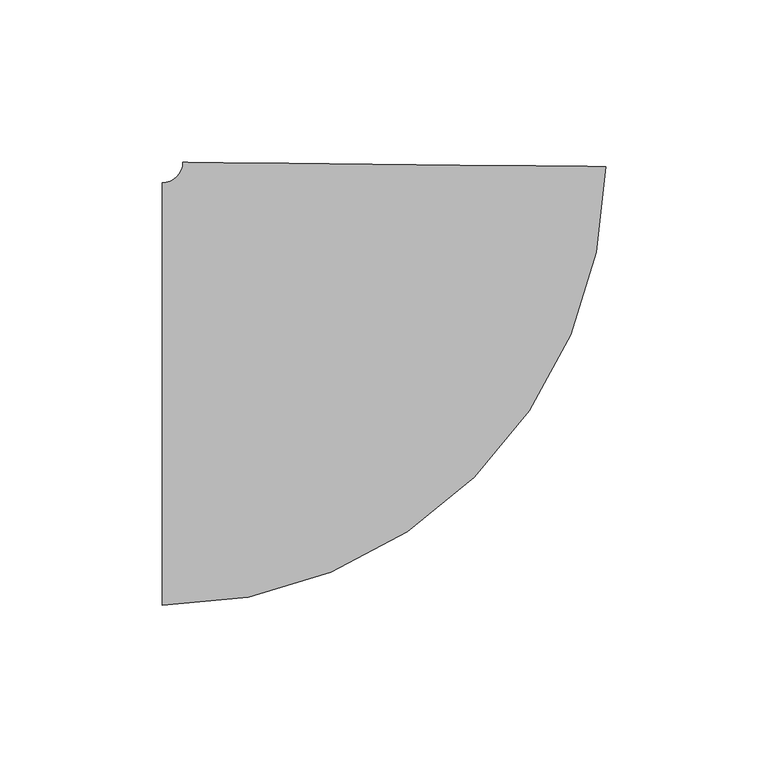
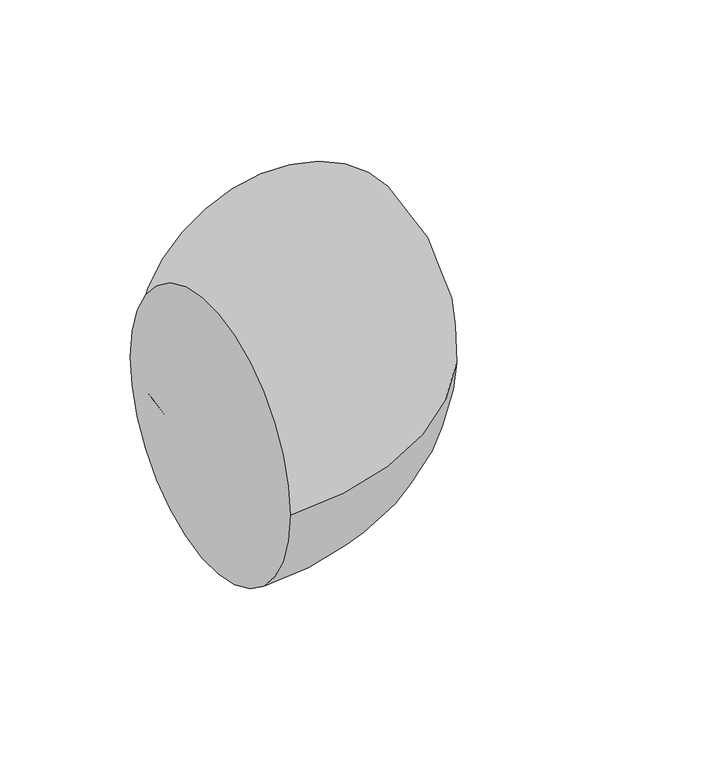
"""IFC4 building model written with IfcOpenShell, lengths in millimetres: pipe fitting geometry, M_Codo - Genérico : Estándar."""

from ifc_helpers import new_model, si_unit, point, frame, origin, place, context, project, spatial, circle_curve, ellipse_curve, trimmed, source, transform, mapped, element, save
from ifc_brep_helpers import plane_surface, revolved_surface, advanced_brep


def pipe_fitting_e24cc5b0(model_context):
    return source(origin(), model_context, "Body", "AdvancedBrep", [
        advanced_brep(
        [(-70.7309041, -65.0875, 0.0), (-70.7309041, 65.0875, 0.0), (65.7873511, 70.0804388, 0.0), (-64.3812179, 71.3743809, 0.0)],
        [
            (0, 1, circle_curve(frame((-70.7309041, 0.0, 0.0), z_axis=(-1.0, 0.0, 0.0), x_axis=(0.0, 1.0, 0.0)), 65.0875)),
            (1, 0, circle_curve(frame((-70.7309041, 0.0, 0.0), z_axis=(-1.0, 0.0, 0.0), x_axis=(0.0, 1.0, 0.0)), 65.0875)),
            (2, 3, circle_curve(frame((0.7030666, 70.7274098, 0.0), z_axis=(0.009940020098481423, 0.9999505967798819, 0.0), x_axis=(-0.9999505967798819, 0.009940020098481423, 0.0)), 65.0875)),
            (3, 2, circle_curve(frame((0.7030666, 70.7274098, 0.0), z_axis=(0.009940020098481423, 0.9999505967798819, 0.0), x_axis=(-0.9999505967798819, 0.009940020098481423, 0.0)), 65.0875)),
            (3, 1, circle_curve(frame((-70.7309041, 71.4375, 0.0), z_axis=(0.0, 0.0, -1.0), x_axis=(0.0, -1.0, 0.0)), 6.35)),
            (0, 2, circle_curve(frame((-70.7309041, 71.4375, 0.0), z_axis=(0.0, 0.0, 1.0), x_axis=(0.0, -1.0, 0.0)), 136.525)),
        ],
        [
            plane_surface(frame((-70.7309041, 0.0, 0.0), z_axis=(-1.0, 0.0, 0.0), x_axis=(0.0, 0.0, 1.0))),
            plane_surface(frame((0.7030666, 70.7274098, 0.0), z_axis=(0.009940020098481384, 0.9999505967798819, 0.0), x_axis=(0.0, 0.0, 1.0))),
            revolved_surface(trimmed(ellipse_curve(frame((-70.7309041, 0.0, 0.0), z_axis=(-1.0, 0.0, 0.0), x_axis=(0.0, 1.0, 0.0)), 65.0875, 65.0875), [point((-70.7309041, -65.0875, 0.0))], [point((-70.7309041, 65.0875, 0.0))], True, "CARTESIAN"), (-70.7309041, 71.4375, 0.0), (0.0, 0.0, 1.0)),
            revolved_surface(trimmed(ellipse_curve(frame((-70.7309041, 0.0, 0.0), z_axis=(-1.0, 0.0, 0.0), x_axis=(0.0, 1.0, 0.0)), 65.0875, 65.0875), [point((-70.7309041, 65.0875, 0.0))], [point((-70.7309041, -65.0875, 0.0))], True, "CARTESIAN"), (-70.7309041, 71.4375, 0.0), (0.0, 0.0, 1.0)),
        ],
        [
            (0, [[1, 2]]),
            (1, [[3, 4]]),
            (2, [[5, -1, 6, -4]]),
            (3, [[-6, -2, -5, -3]]),
        ],
    ),
    ])


if __name__ == "__main__":
    model = new_model("IFC4")
    model_context = context("Model", 3, world=origin())
    ifc_project = project(units=[si_unit("LENGTHUNIT", "METRE", prefix="MILLI")], contexts=[model_context])
    site = spatial("IfcSite", under=ifc_project)
    building = spatial("IfcBuilding", under=site)
    placement = place(None, origin())
    pipe_fitting_shape = pipe_fitting_e24cc5b0(model_context)
    element("IfcPipeFitting", 1, ObjectType="M_Codo - Genérico : Estándar", at=placement, inside=building, context=model_context, shape_type="MappedRepresentation", body=[
        mapped(pipe_fitting_shape, transform((0.0, 0.0, 0.0), x_axis=(1.0, 0.0, 0.0), y_axis=(0.0, 1.0, 0.0), z_axis=(0.0, 0.0, 1.0))),
    ])
    save(model, "model.ifc")
